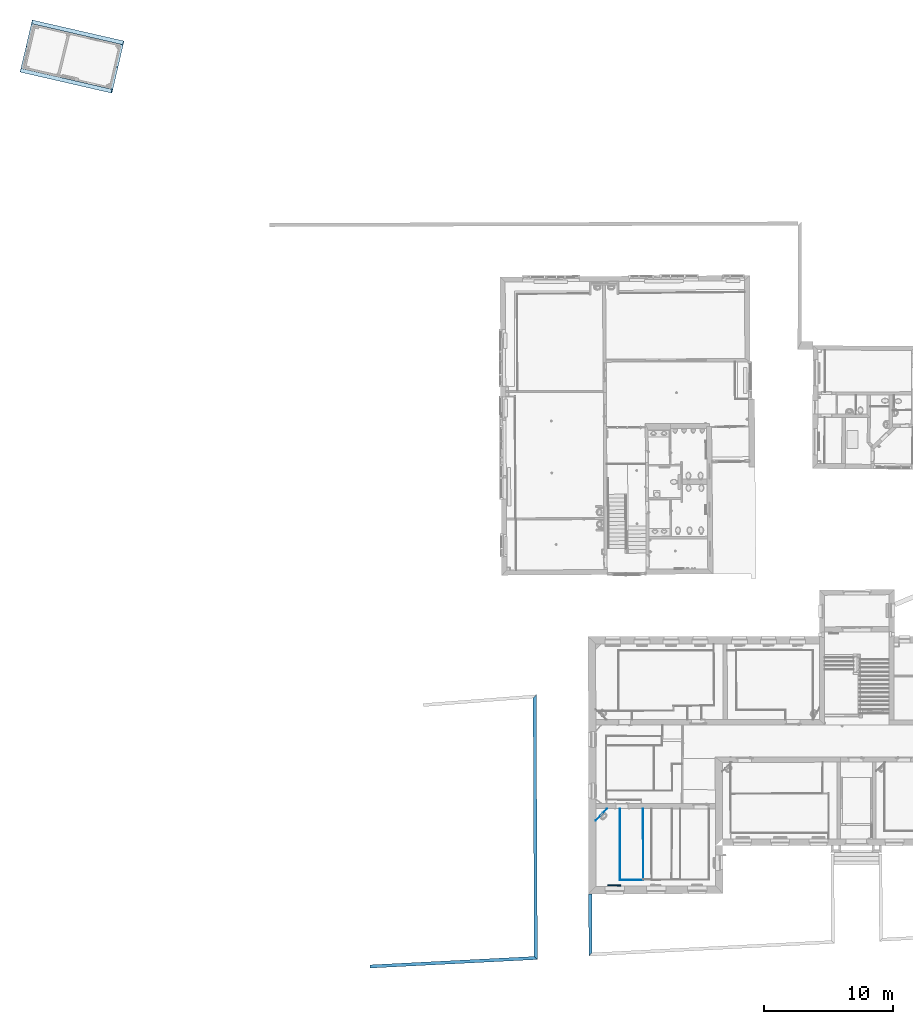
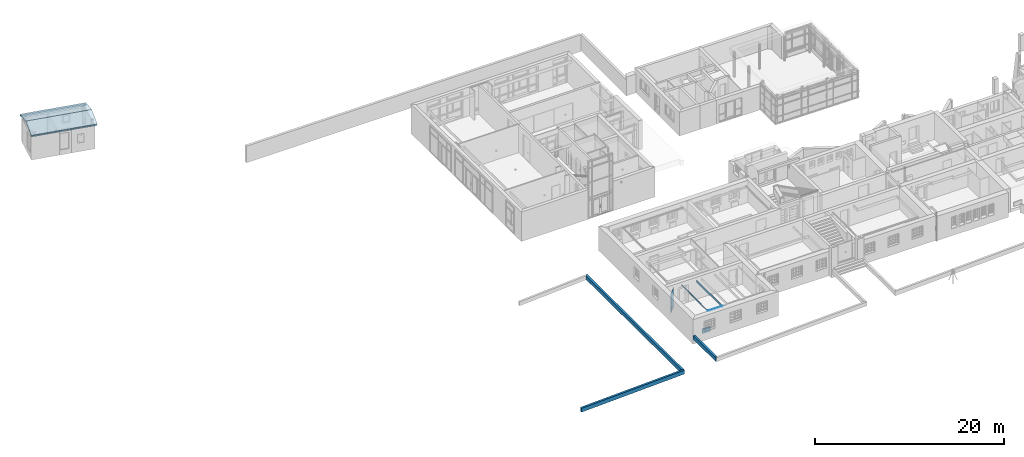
# One storey, part 16 of 196: 8 walls, 4 slabs, 1 opening.
"""IFC2X3 building model written with IfcOpenShell, lengths in metres."""

import ifcopenshell
import ifcopenshell.guid

model = None  # the IFC model being written
_history = None  # IfcOwnerHistory: only IFC2X3 demands one
_inside = {}  # id of a spatial element -> (the spatial element, [elements in it])
_under = {}  # id of a project, library or spatial element -> (it, [spatial elements below it])
_declared = {}  # id of a project -> (the project, [libraries it declares])
_typed = {}  # id of a type object -> (the type object, [elements of that type])
_made_of = {}  # id of a material, layer set ... -> (it, [elements and type objects made of it])


def new_model(schema):
    """Start an empty IFC model of exactly this schema.

    Asked for "IFC4X3", IfcOpenShell would pick the latest addendum, in which some entities
    have other attributes; the version numbers below select the first issue.
    IFC2X3 requires an IfcOwnerHistory on every rooted entity: one is made here for all.
    """
    global model, _history
    if schema == "IFC4X3":
        model = ifcopenshell.file(schema_version=(4, 3, 0, 0))
    else:
        model = ifcopenshell.file(schema=schema)
    _inside.clear()
    _under.clear()
    _declared.clear()
    _typed.clear()
    _made_of.clear()
    _history = None
    if model.schema == "IFC2X3":
        org = make("IfcOrganization", Name="unknown")
        user = make(
            "IfcPersonAndOrganization",
            ThePerson=make("IfcPerson", FamilyName="unknown"),
            TheOrganization=org,
        )
        app = make(
            "IfcApplication",
            ApplicationDeveloper=org,
            Version="unknown",
            ApplicationFullName="unknown",
            ApplicationIdentifier="unknown",
        )
        _history = make(
            "IfcOwnerHistory",
            OwningUser=user,
            OwningApplication=app,
            ChangeAction="ADDED",
            CreationDate=0,
        )
    return model


def make(cls, **values):
    """One entity of the class cls with the attributes given. An attribute that is None is left unset."""
    return model.create_entity(
        cls, **{name: value for name, value in values.items() if value is not None}
    )


def entity(cls, *values):
    """Any entity or typed value of the class cls, its attributes in the order of the schema. None: left unset."""
    e = model.create_entity(cls)
    for i, value in enumerate(values):
        if value is not None:
            e[i] = value
    return e


def rooted(cls, **values):
    """An entity with a GlobalId (a new one), such as an element, a storey or a relation."""
    return make(cls, GlobalId=ifcopenshell.guid.new(), OwnerHistory=_history, **values)


def si_unit(unit_type, name, prefix=None):
    """IfcSIUnit, for example si_unit("LENGTHUNIT", "METRE", prefix="MILLI")."""
    return make("IfcSIUnit", UnitType=unit_type, Prefix=prefix, Name=name)


def converted_unit(unit_type, name, factor, base, dimensions=None, offset=None):
    """IfcConversionBasedUnit, such as the inch: factor (a typed value) times the base unit."""
    return make(
        "IfcConversionBasedUnit"
        if offset is None
        else "IfcConversionBasedUnitWithOffset",
        ConversionOffset=offset,
        Dimensions=None
        if dimensions is None
        else entity("IfcDimensionalExponents", *dimensions),
        UnitType=unit_type,
        Name=name,
        ConversionFactor=make(
            "IfcMeasureWithUnit", ValueComponent=factor, UnitComponent=base
        ),
    )


def derived_unit(unit_type, elements):
    """IfcDerivedUnit: a product of units, each with its exponent."""
    return make(
        "IfcDerivedUnit",
        Elements=[
            make("IfcDerivedUnitElement", Unit=unit, Exponent=power)
            for unit, power in elements
        ],
        UnitType=unit_type,
    )


def money_unit(currency):
    """IfcMonetaryUnit."""
    return make("IfcMonetaryUnit", Currency=currency)


def assignment(units):
    """IfcUnitAssignment: the units of a project."""
    return None if units is None else make("IfcUnitAssignment", Units=units)


def point(xyz):
    """IfcCartesianPoint."""
    return None if xyz is None else make("IfcCartesianPoint", Coordinates=xyz)


def direction(xyz):
    """IfcDirection."""
    return None if xyz is None else make("IfcDirection", DirectionRatios=xyz)


def frame(location, z_axis=None, x_axis=None):
    """IfcAxis2Placement3D, a coordinate frame: its origin and axes. An axis left out is left unset."""
    return make(
        "IfcAxis2Placement3D",
        Location=point(location),
        Axis=direction(z_axis),
        RefDirection=direction(x_axis),
    )


def frame_2d(location, x_axis=None):
    """IfcAxis2Placement2D, a coordinate frame in the plane: its origin and x axis."""
    return make(
        "IfcAxis2Placement2D", Location=point(location), RefDirection=direction(x_axis)
    )


def origin_with_axes():
    """The frame at (0, 0, 0) with the z axis (0, 0, 1) and the x axis (1, 0, 0) written out."""
    return frame((0.0, 0.0, 0.0), z_axis=(0.0, 0.0, 1.0), x_axis=(1.0, 0.0, 0.0))


def origin_2d_with_axis():
    """The frame at (0, 0) in the plane with the x axis (1, 0) written out."""
    return frame_2d((0.0, 0.0), x_axis=(1.0, 0.0))


def place(relative_to, where):
    """IfcLocalPlacement: puts the frame where relative to a parent placement (None: the world)."""
    return make(
        "IfcLocalPlacement", PlacementRelTo=relative_to, RelativePlacement=where
    )


def context(
    kind, dimensions, precision=None, world=None, true_north=None, identifier=None
):
    """IfcGeometricRepresentationContext, for example the 3D "Model" context."""
    return make(
        "IfcGeometricRepresentationContext",
        ContextIdentifier=identifier,
        ContextType=kind,
        CoordinateSpaceDimension=dimensions,
        Precision=precision,
        WorldCoordinateSystem=world,
        TrueNorth=true_north,
    )


def subcontext(parent, identifier, kind, view, scale=None):
    """IfcGeometricRepresentationSubContext, for example "Body" below "Model"."""
    return make(
        "IfcGeometricRepresentationSubContext",
        ContextIdentifier=identifier,
        ContextType=kind,
        ParentContext=parent,
        TargetScale=scale,
        TargetView=view,
    )


def project(units=None, contexts=None):
    """IfcProject with its units and contexts."""
    return rooted(
        "IfcProject",
        Name="project",
        RepresentationContexts=contexts,
        UnitsInContext=assignment(units),
    )


def spatial(cls, under=None, at=None, **own):
    """A site, building, storey or space (cls), placed at a placement, below another one or the project."""
    s = rooted(cls, ObjectPlacement=at, **own)
    if under is not None:
        _under.setdefault(under.id(), (under, []))[1].append(s)
    return s


def polyline(points):
    """IfcPolyline through the points."""
    return make("IfcPolyline", Points=[point(p) for p in points])


def profile(cls, at=None, kind="AREA", **sizes):
    """A parametric profile (cls). Its sizes go by their IFC names, for example OverallWidth=200.0."""
    return make(cls, ProfileType=kind, Position=at, **sizes)


def rectangle(**sizes):
    """IfcRectangleProfileDef."""
    return profile("IfcRectangleProfileDef", **sizes)


def outline(outer, holes=None, kind="AREA"):
    """IfcArbitraryClosedProfileDef: a profile drawn as a closed curve; with holes, ...WithVoids."""
    if holes is None:
        return make("IfcArbitraryClosedProfileDef", ProfileType=kind, OuterCurve=outer)
    return make(
        "IfcArbitraryProfileDefWithVoids",
        ProfileType=kind,
        OuterCurve=outer,
        InnerCurves=holes,
    )


def extrude(swept, where, along, depth):
    """IfcExtrudedAreaSolid: the profile swept, set in the frame where, extruded along a direction by depth."""
    return make(
        "IfcExtrudedAreaSolid",
        SweptArea=swept,
        Position=where,
        ExtrudedDirection=direction(along),
        Depth=depth,
    )


def boolean(op, a, b):
    """IfcBooleanResult of two solids."""
    return make("IfcBooleanResult", Operator=op, FirstOperand=a, SecondOperand=b)


def faces_of(points, faces, orient=None, outer=None):
    """IfcFace entities. A face is a list of loops; a loop is a list of indices into points, from 0.

    orient and outer hold one flag for each loop. By default every Orientation is true, the
    first loop of a face is its IfcFaceOuterBound and the others are IfcFaceBound.
    """
    made = []
    for i, loops in enumerate(faces):
        bounds = []
        for j, loop in enumerate(loops):
            is_outer = j == 0 if outer is None else outer[i][j]
            bounds.append(
                make(
                    "IfcFaceOuterBound" if is_outer else "IfcFaceBound",
                    Bound=make("IfcPolyLoop", Polygon=[points[k] for k in loop]),
                    Orientation=True if orient is None else orient[i][j],
                )
            )
        made.append(make("IfcFace", Bounds=bounds))
    return made


def faceted_brep(points, faces, orient=None, outer=None, voids=None):
    """IfcFacetedBrep: a solid bounded by flat faces; with voids (closed shells), ...WithVoids."""
    shared = [point(p) for p in points]
    hull = make("IfcClosedShell", CfsFaces=faces_of(shared, faces, orient, outer))
    if voids is None:
        return make("IfcFacetedBrep", Outer=hull)
    return make(
        "IfcFacetedBrepWithVoids",
        Outer=hull,
        Voids=[
            make(cls, CfsFaces=faces_of(shared, fs, o, b)) for cls, fs, o, b in voids
        ],
    )


def shape(context_of_items, identifier, shape_type, items):
    """IfcShapeRepresentation: the items that make up one representation, for example the "Body"."""
    return make(
        "IfcShapeRepresentation",
        ContextOfItems=context_of_items,
        RepresentationIdentifier=identifier,
        RepresentationType=shape_type,
        Items=items,
    )


def material(Name=None, Category=None):
    """IfcMaterial."""
    return make("IfcMaterial", Name=Name, Category=Category)


def layer(
    of_material, thickness, ventilated=None, Name=None, Category=None, Priority=None
):
    """IfcMaterialLayer: one layer of a wall or slab, of a material (None: an air gap)."""
    return make(
        "IfcMaterialLayer",
        Material=of_material,
        LayerThickness=thickness,
        IsVentilated=ventilated,
        Name=Name,
        Category=Category,
        Priority=Priority,
    )


def layer_set(layers, Name=None):
    """IfcMaterialLayerSet."""
    return make("IfcMaterialLayerSet", MaterialLayers=layers, LayerSetName=Name)


def layer_usage(for_layer_set, set_direction, sense, offset, extent=None):
    """IfcMaterialLayerSetUsage: how a layer set lies in its element."""
    return make(
        "IfcMaterialLayerSetUsage",
        ForLayerSet=for_layer_set,
        LayerSetDirection=set_direction,
        DirectionSense=sense,
        OffsetFromReferenceLine=offset,
        ReferenceExtent=extent,
    )


def made_of(thing, what):
    """Note that an element or type object is made of a material, layer set ...; save() writes the relation."""
    if what is not None:
        _made_of.setdefault(what.id(), (what, []))[1].append(thing)
    return thing


def type_object(cls, material=None, **own):
    """A type object (cls), such as IfcWallType, which elements share."""
    return made_of(rooted(cls, **own), material)


def element(
    cls,
    number,
    at=None,
    inside=None,
    cuts=None,
    type_object=None,
    material=None,
    context=None,
    identifier="Body",
    shape_type=None,
    held_by="IfcProductDefinitionShape",
    body=None,
    shapes=None,
    **own,
):
    """One element of the class cls, such as IfcWall. Its Tag is "e" and its number.

    at: its placement. inside: the storey or other place that contains it. cuts: it is an
    opening in that element (IfcRelVoidsElement). A single representation is given by context,
    identifier, shape_type and body (its items); several are given by shapes. held_by: the class
    of the entity that holds the representations. save() writes the other relations.
    """
    e = rooted(cls, Tag="e%d" % number, ObjectPlacement=at, **own)
    if body is not None:
        shapes = [shape(context, identifier, shape_type, body)]
    if shapes is not None:
        e.Representation = make(held_by, Representations=shapes)
    if inside is not None:
        _inside.setdefault(inside.id(), (inside, []))[1].append(e)
    if cuts is not None:
        rooted(
            "IfcRelVoidsElement", RelatingBuildingElement=cuts, RelatedOpeningElement=e
        )
    if type_object is not None:
        _typed.setdefault(type_object.id(), (type_object, []))[1].append(e)
    return made_of(e, material)


def aggregate(whole, parts):
    """IfcRelAggregates: a whole, such as a stair, and the parts it consists of."""
    return rooted("IfcRelAggregates", RelatingObject=whole, RelatedObjects=parts)


def save(model, path):
    """Write the relations noted so far, then the file.

    IfcRelAggregates (storeys below a building ...), IfcRelContainedInSpatialStructure (elements
    in a storey), IfcRelDefinesByType, IfcRelAssociatesMaterial and IfcRelDeclares: one each for
    every whole, place, type object, material and project.
    """
    for whole, parts in _under.values():
        aggregate(whole, parts)
    for where, things in _inside.values():
        rooted(
            "IfcRelContainedInSpatialStructure",
            RelatedElements=things,
            RelatingStructure=where,
        )
    for kind, things in _typed.values():
        rooted("IfcRelDefinesByType", RelatedObjects=things, RelatingType=kind)
    for what, things in _made_of.values():
        rooted("IfcRelAssociatesMaterial", RelatedObjects=things, RelatingMaterial=what)
    for by, libraries in _declared.values():
        rooted("IfcRelDeclares", RelatingContext=by, RelatedDefinitions=libraries)
    model.write(path)


model = new_model("IFC2X3")

# Units and contexts
model_context = context("Model", 3, precision=1e-05, world=origin_with_axes(), true_north=direction((0.0, 1.0)))
body_context = subcontext(model_context, "Body", "Model", "MODEL_VIEW")
ifc_project = project(units=[si_unit("LENGTHUNIT", "METRE"), si_unit("AREAUNIT", "SQUARE_METRE"), si_unit("VOLUMEUNIT", "CUBIC_METRE"), converted_unit("PLANEANGLEUNIT", "DEGREE", entity("IfcPlaneAngleMeasure", 0.0174532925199), si_unit("PLANEANGLEUNIT", "RADIAN"), dimensions=[0, 0, 0, 0, 0, 0, 0]), money_unit("EUR"), converted_unit("TIMEUNIT", "Year", entity("IfcTimeMeasure", 31556926.0), si_unit("TIMEUNIT", "SECOND"), dimensions=[0, 0, 1, 0, 0, 0, 0]), si_unit("MASSUNIT", "GRAM", prefix="KILO"), si_unit("THERMODYNAMICTEMPERATUREUNIT", "DEGREE_CELSIUS"), si_unit("LUMINOUSINTENSITYUNIT", "LUMEN"), si_unit("ENERGYUNIT", "JOULE", prefix="MEGA"), derived_unit("THERMALCONDUCTANCEUNIT", [(si_unit("POWERUNIT", "WATT"), 1), (si_unit("LENGTHUNIT", "METRE"), -1), (si_unit("THERMODYNAMICTEMPERATUREUNIT", "KELVIN"), -1)]), derived_unit("SPECIFICHEATCAPACITYUNIT", [(si_unit("ENERGYUNIT", "JOULE"), 1), (si_unit("MASSUNIT", "GRAM", prefix="KILO"), -1), (si_unit("THERMODYNAMICTEMPERATUREUNIT", "KELVIN"), -1)]), derived_unit("MASSDENSITYUNIT", [(si_unit("MASSUNIT", "GRAM", prefix="KILO"), 1), (si_unit("VOLUMEUNIT", "CUBIC_METRE"), -1)])], contexts=[model_context])

# Site, building, storey
site_placement = place(None, origin_with_axes())
site = spatial("IfcSite", under=ifc_project, at=site_placement, Name="Gelände", CompositionType="ELEMENT")
building_placement = place(site_placement, origin_with_axes())
building = spatial("IfcBuilding", under=site, at=building_placement, Name="Gebäude", CompositionType="ELEMENT")
storey_placement = place(building_placement, frame((0.0, 0.0, -3.0), z_axis=(0.0, 0.0, 1.0), x_axis=(1.0, 0.0, 0.0)))
storey = spatial("IfcBuildingStorey", under=building, at=storey_placement, Name="KELLERGESCHOSS", CompositionType="ELEMENT", Elevation=-3.0)

# Slabs
ifc_material_1 = material(Name="29_Dach, Dachziegel rot")
slab_type_1 = type_object("IfcSlabType", Name="29_Dach, Dachziegel rot 80", PredefinedType="ROOF")
slab_1_placement = place(storey_placement, frame((-64.6208777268, 72.0425297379, 3.3437845), z_axis=(0.0, 0.0, 1.0), x_axis=(-0.974384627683, 0.224887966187, 0.0)))
element("IfcSlab", 1, at=slab_1_placement, inside=storey, type_object=slab_type_1, material=ifc_material_1, Name="Dach-011", PredefinedType="ROOF", context=body_context, shape_type="Brep", body=[
    faceted_brep([(6.72814537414, 1.84927973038, 0.51327261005), (-0.559907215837, 1.83155897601, 0.509141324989), (-0.563869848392, -0.245065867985, 0.0250124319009), (6.72537843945, -0.23116011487, 0.0282543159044), (6.72812129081, 1.84933487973, 0.431140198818), (-0.559941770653, 1.83161409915, 0.427008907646), (-0.563904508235, -0.245065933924, -0.0571328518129), (6.72535428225, -0.231160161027, -0.0538909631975)], [[[0, 1, 2, 3]], [[1, 0, 4, 5]], [[2, 1, 5, 6]], [[3, 2, 6, 7]], [[0, 3, 7, 4]], [[5, 4, 7, 6]]]),
])
slab_2_placement = place(storey_placement, frame((-68.8423161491, 69.3728427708, 3.3770735), z_axis=(0.0, 0.0, 1.0), x_axis=(0.975469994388, -0.220132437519, 0.0)))
element("IfcSlab", 2, at=slab_2_placement, inside=storey, type_object=slab_type_1, material=ifc_material_1, Name="Dach-012", PredefinedType="ROOF", context=body_context, shape_type="Brep", body=[
    faceted_brep([(4.08116839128, 1.69920675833, 0.475852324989), (-3.2068839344, 1.71703587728, 0.47998361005), (-3.22819989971, -0.337238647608, 0.00397614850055), (4.06809557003, -0.36750035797, -0.00303596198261), (4.0810538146, 1.69915183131, 0.393719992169), (-3.20707188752, 1.71698112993, 0.39785131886), (-3.22838727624, -0.3372378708, -0.0781432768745), (4.06798134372, -0.367499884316, -0.0851554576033)], [[[0, 1, 2, 3]], [[1, 0, 4, 5]], [[2, 1, 5, 6]], [[3, 2, 6, 7]], [[0, 3, 7, 4]], [[5, 4, 7, 6]]]),
])
ifc_material_2 = material(Name="48_Holz, Brettschichtholz")
ifc_layer_1 = layer(ifc_material_2, 0.208782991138, ventilated="UNKNOWN")
ifc_layer_set_1 = layer_set([ifc_layer_1], Name="48_Holz, Brettschichtholz 0.208783")
ifc_layer_usage_1 = layer_usage(ifc_layer_set_1, "AXIS3", "NEGATIVE", 0.208782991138)
slab_type_2 = type_object("IfcSlabType", Name="48_Holz, Brettschichtholz 209", PredefinedType="NOTDEFINED")
slab_3_placement = place(storey_placement, frame((-65.0119094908, 68.131949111, 3.16), z_axis=(0.0, 0.0, 1.0), x_axis=(1.0, 0.0, 0.0)))
element("IfcSlab", 3, at=slab_3_placement, inside=storey, type_object=slab_type_2, material=ifc_layer_usage_1, Name="Belag-008", PredefinedType="NOTDEFINED", context=body_context, shape_type="CSG", body=[
    boolean("DIFFERENCE", extrude(outline(polyline([(0.0, 0.0), (0.0661704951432, 0.293539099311), (-6.97475745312, 1.91410513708), (-7.04245388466, 1.61998216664), (0.0, 0.0)])), origin_with_axes(), (0.0, 0.0, 1.0), 0.208782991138), faceted_brep([(0.0, -1.04009245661e-10, 0.131974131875), (0.0661704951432, 0.293539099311, 0.201698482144), (0.0661704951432, 0.293539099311, 0.208782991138), (0.0, 0.0, 0.208782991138), (-6.90571931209, 1.898215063, 0.208782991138), (-7.04245388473, 1.61998216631, 0.1389189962), (-6.97482536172, 1.91381009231, 0.208782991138), (-7.04245388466, 1.61998216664, 0.208782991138)], [[[0, 1, 2, 3]], [[4, 1, 0, 5, 6]], [[1, 4, 2]], [[4, 6, 7, 3, 2]], [[5, 0, 3, 7]], [[6, 5, 7]]])),
])
ifc_layer_usage_2 = layer_usage(ifc_layer_set_1, "AXIS3", "NEGATIVE", 0.208782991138)
slab_4_placement = place(storey_placement, frame((-71.1032279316, 73.7759308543, 3.155), z_axis=(0.0, 0.0, 1.0), x_axis=(1.0, 0.0, 0.0)))
element("IfcSlab", 4, at=slab_4_placement, inside=storey, type_object=slab_type_2, material=ifc_layer_usage_2, Name="Belag-008", PredefinedType="NOTDEFINED", context=body_context, shape_type="CSG", body=[
    boolean("DIFFERENCE", extrude(outline(polyline([(0.0, 0.0), (-0.0652286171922, -0.285100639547), (6.86764963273, -1.88385280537), (6.865719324, -1.89212368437), (6.97675728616, -1.9169937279), (7.04510059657, -1.61185948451), (0.0, 0.0)])), origin_with_axes(), (0.0, 0.0, 1.0), 0.208782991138), faceted_brep([(6.97675728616, -1.9169937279, 0.204568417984), (7.04510059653, -1.61185948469, 0.131670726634), (7.04510059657, -1.61185948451, 0.208782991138), (6.97675728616, -1.9169937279, 0.208782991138), (0.0, 0.0, 0.134884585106), (6.865719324, -1.89212368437, 0.204740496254), (6.86764963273, -1.88385280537, 0.202760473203), (-0.0652286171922, -0.285100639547, 0.203068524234), (0.0, 0.0, 0.208782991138), (-0.0652286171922, -0.285100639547, 0.208782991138), (6.86764963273, -1.88385280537, 0.208782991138), (6.865719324, -1.89212368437, 0.208782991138)], [[[0, 1, 2, 3]], [[4, 1, 0, 5, 6, 7]], [[1, 4, 8, 2]], [[2, 8, 9, 10, 11, 3]], [[5, 0, 3, 11]], [[6, 5, 11, 10]], [[7, 6, 10, 9]], [[4, 7, 9, 8]]])),
])

# Walls
ifc_material_3 = material(Name="05_ALLGEMEIN - TRAGENDE BAUTEILE")
ifc_layer_2 = layer(ifc_material_3, 0.250000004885, ventilated="UNKNOWN")
ifc_layer_set_2 = layer_set([ifc_layer_2], Name="05_ALLGEMEIN - TRAGENDE BAUTEILE 0.25")
ifc_layer_usage_3 = layer_usage(ifc_layer_set_2, "AXIS2", "NEGATIVE", 0.0)
wall_type_1 = type_object("IfcWallType", Name="05_ALLGEMEIN - TRAGENDE BAUTEILE 250", PredefinedType="ELEMENTEDWALL")
wall_1_placement = place(storey_placement, frame((-28.0770408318, 1.38800600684, 0.262), z_axis=(0.0, 0.0, 1.0), x_axis=(-0.00393923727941, 0.999992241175, 0.0)))
element("IfcWallStandardCase", 5, at=wall_1_placement, inside=storey, type_object=wall_type_1, material=ifc_layer_usage_3, Name="Wand-042", ObjectType="ELEMENTEDWALL", context=body_context, shape_type="SweptSolid", body=[
    extrude(outline(polyline([(0.262230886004, -0.25), (4.81166121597, -0.25), (4.81211418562, 0.0), (0.0, 0.0), (0.262230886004, -0.25)])), origin_with_axes(), (0.0, 0.0, 1.0), 0.5),
])
ifc_layer_usage_4 = layer_usage(ifc_layer_set_2, "AXIS2", "NEGATIVE", 0.0)
wall_2_placement = place(storey_placement, frame((-32.1416048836, 21.6088242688, 0.262), z_axis=(0.0, 0.0, 1.0), x_axis=(0.00429586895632, -0.999990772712, 0.0)))
element("IfcWallStandardCase", 6, at=wall_2_placement, inside=storey, type_object=wall_type_1, material=ifc_layer_usage_4, Name="Wand-044", ObjectType="ELEMENTEDWALL", context=body_context, shape_type="SweptSolid", body=[
    extrude(outline(polyline([(0.2689712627, -0.25), (20.2407442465, -0.25), (20.4792723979, 0.0), (0.0, 0.0), (0.2689712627, -0.25)])), origin_with_axes(), (0.0, 0.0, 1.0), 0.5),
])
ifc_layer_usage_5 = layer_usage(ifc_layer_set_2, "AXIS2", "NEGATIVE", 0.0)
wall_3_placement = place(storey_placement, frame((-32.053628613, 1.1297408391, 0.262), z_axis=(0.0, 0.0, 1.0), x_axis=(-0.998686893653, -0.0512297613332, 0.0)))
element("IfcWallStandardCase", 7, at=wall_3_placement, inside=storey, type_object=wall_type_1, material=ifc_layer_usage_5, Name="Wand-045", ObjectType="ELEMENTEDWALL", context=body_context, shape_type="SweptSolid", body=[
    extrude(outline(polyline([(0.238528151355, -0.25), (12.9539930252, -0.25), (12.9539930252, 0.0), (0.0, 0.0), (0.238528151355, -0.25)])), origin_with_axes(), (0.0, 0.0, 1.0), 0.5),
])

# Wall, opening
ifc_material_4 = material(Name="43_Gipskarton")
ifc_layer_3 = layer(ifc_material_4, 0.03, ventilated="UNKNOWN")
ifc_layer_set_3 = layer_set([ifc_layer_3], Name="43_Gipskarton 0.03")
ifc_layer_usage_6 = layer_usage(ifc_layer_set_3, "AXIS2", "NEGATIVE", 0.03)
wall_type_2 = type_object("IfcWallType", Name="43_Gipskarton 30", PredefinedType="ELEMENTEDWALL")
wall_4_placement = place(storey_placement, frame((-28.1145678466, 11.2541602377, -0.0414357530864), z_axis=(0.0, 0.0, 1.0), x_axis=(0.686347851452, 0.727273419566, 0.0)))
wall_4 = element("IfcWallStandardCase", 8, at=wall_4_placement, inside=storey, type_object=wall_type_2, material=ifc_layer_usage_6, Name="Wand-035", ObjectType="ELEMENTEDWALL", context=body_context, shape_type="SweptSolid", body=[
    extrude(outline(polyline([(0.844217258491, 0.0), (2.11751089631, 0.0), (2.08926470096, 0.03), (0.87594666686, 0.03), (0.844217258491, 0.0)])), origin_with_axes(), (0.0, 0.0, 1.0), 2.50143575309),
])
opening_placement = place(wall_4_placement, frame((1.49431739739, 0.0, 0.1234065), z_axis=(0.0, 0.0, 1.0), x_axis=(1.0, 0.0, 0.0)))
element("IfcOpeningElement", 9, at=opening_placement, cuts=wall_4, Name="Tür-022", context=body_context, shape_type="SweptSolid", body=[
    extrude(rectangle(XDim=0.30048911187, YDim=0.295869, at=origin_2d_with_axis()), frame((0.0, 0.03, 0.1479345), z_axis=(0.0, -1.0, 0.0), x_axis=(-1.0, 0.0, 0.0)), (0.0, 0.0, 1.0), 0.09),
])

# Walls
ifc_layer_usage_7 = layer_usage(ifc_layer_set_3, "AXIS2", "NEGATIVE", 0.0)
wall_5_placement = place(storey_placement, frame((-25.6671263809, 12.7930181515, 2.37), z_axis=(0.0, 0.0, 1.0), x_axis=(0.00086012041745, -0.999999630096, 0.0)))
element("IfcWallStandardCase", 10, at=wall_5_placement, inside=storey, type_object=wall_type_2, material=ifc_layer_usage_7, Name="Wand-049", ObjectType="ELEMENTEDWALL", context=body_context, shape_type="SweptSolid", body=[
    extrude(outline(polyline([(0.0, -0.03), (5.52131159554, -0.03), (5.49127114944, 0.0), (0.0, 0.0), (0.0, -0.03)])), origin_with_axes(), (0.0, 0.0, 1.0), 0.09),
])
ifc_layer_usage_8 = layer_usage(ifc_layer_set_3, "AXIS2", "NEGATIVE", 0.0)
wall_6_placement = place(storey_placement, frame((-25.6624032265, 7.30174903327, 2.37), z_axis=(0.0, 0.0, 1.0), x_axis=(0.99999756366, 0.00220741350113, 0.0)))
element("IfcWallStandardCase", 11, at=wall_6_placement, inside=storey, type_object=wall_type_2, material=ifc_layer_usage_8, Name="Wand-050", ObjectType="ELEMENTEDWALL", context=body_context, shape_type="SweptSolid", body=[
    extrude(outline(polyline([(-0.0300404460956, -0.03), (1.80992114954, -0.03), (1.77990587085, 0.0), (0.0, 0.0), (-0.0300404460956, -0.03)])), origin_with_axes(), (0.0, 0.0, 1.0), 0.09),
])
ifc_layer_usage_9 = layer_usage(ifc_layer_set_3, "AXIS2", "NEGATIVE", 0.0)
wall_7_placement = place(storey_placement, frame((-23.8825016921, 7.30567802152, 2.18), z_axis=(0.0, 0.0, 1.0), x_axis=(-0.00271657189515, 0.999996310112, 0.0)))
element("IfcWallStandardCase", 12, at=wall_7_placement, inside=storey, type_object=wall_type_2, material=ifc_layer_usage_9, Name="Wand-052", ObjectType="ELEMENTEDWALL", context=body_context, shape_type="SweptSolid", body=[
    extrude(outline(polyline([(-0.0300152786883, -0.03), (5.48531046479, -0.03), (5.48531046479, 0.0), (0.0, 0.0), (-0.0300152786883, -0.03)])), origin_with_axes(), (0.0, 0.0, 1.0), 0.28),
])
ifc_material_5 = material(Name="01_ALLGEMEIN - BAUTEIL")
ifc_layer_4 = layer(ifc_material_5, 0.105, ventilated="UNKNOWN")
ifc_layer_set_4 = layer_set([ifc_layer_4], Name="01_ALLGEMEIN - BAUTEIL 0.105")
ifc_layer_usage_10 = layer_usage(ifc_layer_set_4, "AXIS2", "NEGATIVE", 0.0)
wall_type_3 = type_object("IfcWallType", Name="01_ALLGEMEIN - BAUTEIL 105", PredefinedType="ELEMENTEDWALL")
wall_8_placement = place(storey_placement, frame((-26.6010668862, 6.92292221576, 0.0805299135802), z_axis=(0.0, 0.0, 1.0), x_axis=(0.999990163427, -0.00443543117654, 0.0)))
element("IfcWallStandardCase", 13, at=wall_8_placement, inside=storey, type_object=wall_type_3, material=ifc_layer_usage_10, Name="Wand-036", ObjectType="ELEMENTEDWALL", context=body_context, shape_type="SweptSolid", body=[
    extrude(outline(polyline([(0.0, -0.105), (1.00114041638, -0.105), (1.00114041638, 0.0), (0.0, 0.0), (0.0, -0.105)])), origin_with_axes(), (0.0, 0.0, 1.0), 0.597873),
])

save(model, "model.ifc")
